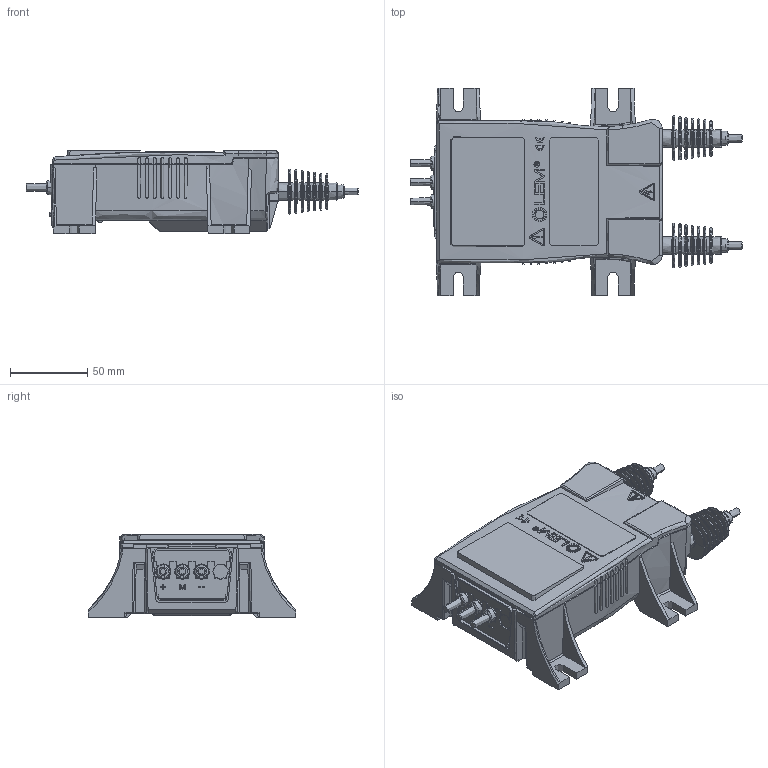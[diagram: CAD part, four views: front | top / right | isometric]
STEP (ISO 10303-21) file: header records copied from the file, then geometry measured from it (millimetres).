
FILE_DESCRIPTION(('Creo Elements/Direct Modeling STEP Export'),'2;1');
FILE_NAME('BLACKBOX_DV4000_SP3.stp','2015-09-04T10:32:47',(''),(''),'PTC Creo Elements/Direct Modeling STEP processor for AP214 (Solid Model)','PTC Creo Elements/Direct Modeling 19.0B 21-Mar-2015 (C) Parametric Technology GmbH','');
FILE_SCHEMA(('AUTOMOTIVE_DESIGN { 1 0 10303 214 1 1 1 1 }'));
Products named in the file (2): DV_2000_SP2
Assembly tree (1 placements, depth 2):
  DV_2000_SP2
    DV_2000_SP2
Bounding box: 214.7 x 134 x 53.71 mm (x, y, z)
Volume: 370467.8 mm3; surface area: 129864.9 mm2
Topology: 1 solids, 3 shells, 3544 faces, 9817 edges, 6420 vertices
Faces by surface type: plane 2694, cylinder 495, bspline 219, cone 66, torus 36, extrusion 34
Entity records: 160217 total; most frequent: CARTESIAN_POINT 72015, ORIENTED_EDGE 19620, DIRECTION 15608, EDGE_CURVE 9808, VECTOR 7260, LINE 7223, VERTEX_POINT 6420, AXIS2_PLACEMENT_3D 4174
